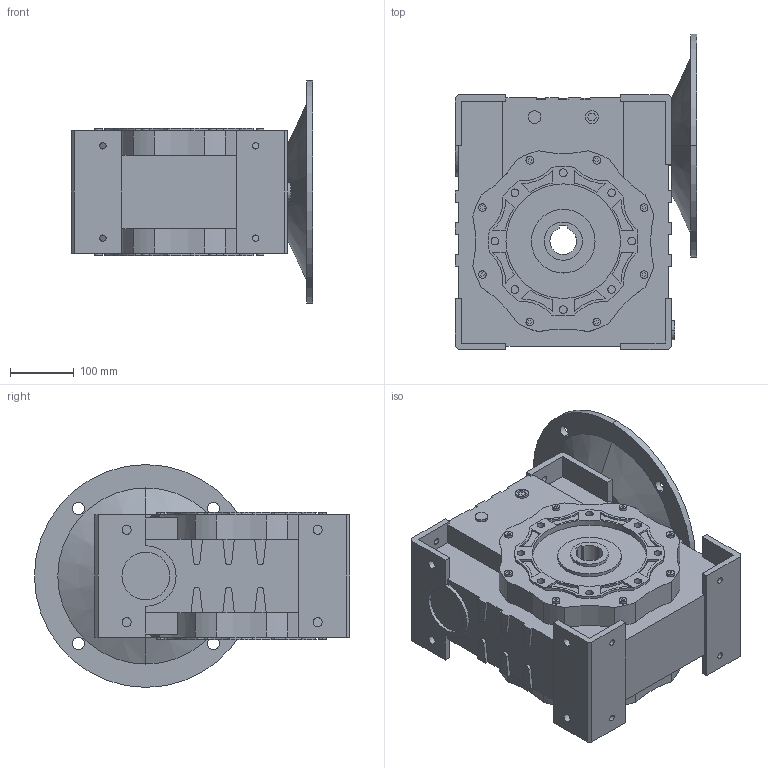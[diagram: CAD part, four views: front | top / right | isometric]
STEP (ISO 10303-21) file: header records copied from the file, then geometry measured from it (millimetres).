
FILE_DESCRIPTION (( 'STEP AP203' ), '1' );
FILE_NAME ('RV150.STEP', '2018-09-27T08:51:40', ( '微软用户' ), ( '微软中国' ), 'SwSTEP 2.0', 'SolidWorks 2014', '' );
FILE_SCHEMA (( 'CONFIG_CONTROL_DESIGN' ));
Length unit declared in the file: millimetre
Products named in the file (1): RV150
Bounding box: 380 x 495 x 350 mm (x, y, z)
Volume: 22466970.7 mm3; surface area: 913914.8 mm2
Topology: 1 solids, 1 shells, 775 faces, 1969 edges, 1311 vertices
Faces by surface type: plane 475, cylinder 296, cone 4
Entity records: 23593 total; most frequent: DIRECTION 4126, CARTESIAN_POINT 4056, ORIENTED_EDGE 3938, EDGE_CURVE 1969, AXIS2_PLACEMENT_3D 1381, LINE 1364, VECTOR 1364, VERTEX_POINT 1311
